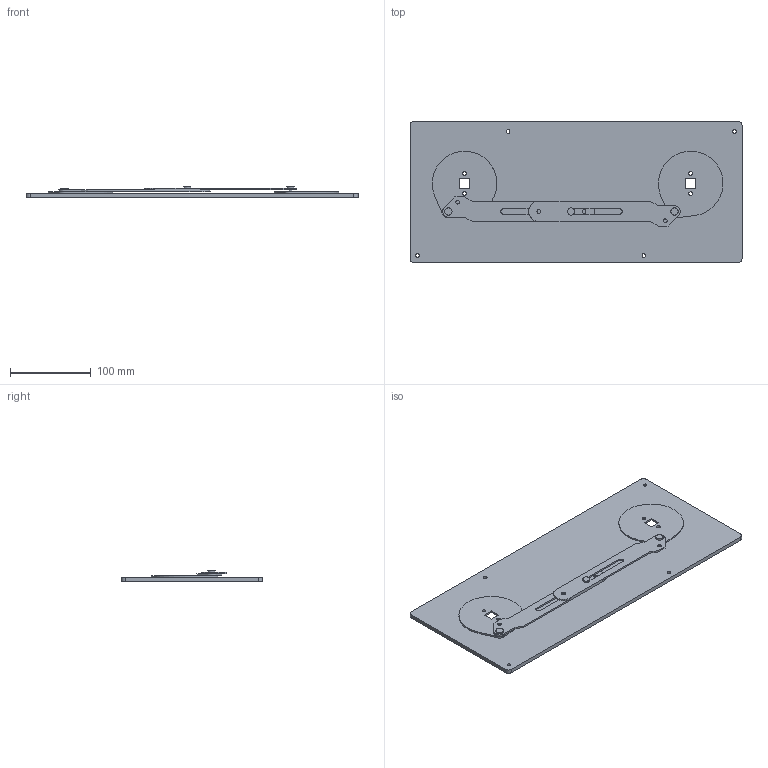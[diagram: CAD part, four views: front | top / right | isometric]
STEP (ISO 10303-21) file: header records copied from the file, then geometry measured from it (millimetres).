
FILE_DESCRIPTION((''),'2;1');
FILE_NAME('SB108970_3D_COLOUR','2013-09-16T',('SESA231906'),('Schneider-Electric'),'PRO/ENGINEER BY PARAMETRIC TECHNOLOGY CORPORATION, 2011410','PRO/ENGINEER BY PARAMETRIC TECHNOLOGY CORPORATION, 2011410','');
FILE_SCHEMA(('CONFIG_CONTROL_DESIGN'));
Length unit declared in the file: millimetre
Products named in the file (1): SB108970_3D_COLOUR
Bounding box: 411 x 175 x 13.05 mm (x, y, z)
Volume: 357357.1 mm3; surface area: 171711.1 mm2
Topology: 2 solids, 2 shells, 103 faces, 280 edges, 184 vertices
Faces by surface type: cylinder 54, plane 49
Entity records: 3393 total; most frequent: DIRECTION 601, CARTESIAN_POINT 567, ORIENTED_EDGE 560, EDGE_CURVE 280, AXIS2_PLACEMENT_3D 218, VERTEX_POINT 184, VECTOR 165, LINE 165
